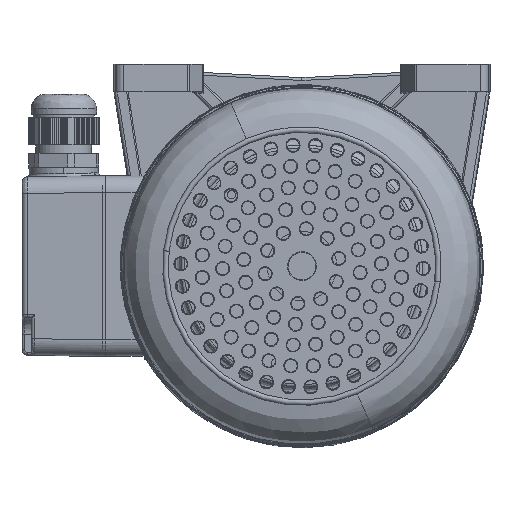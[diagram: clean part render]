
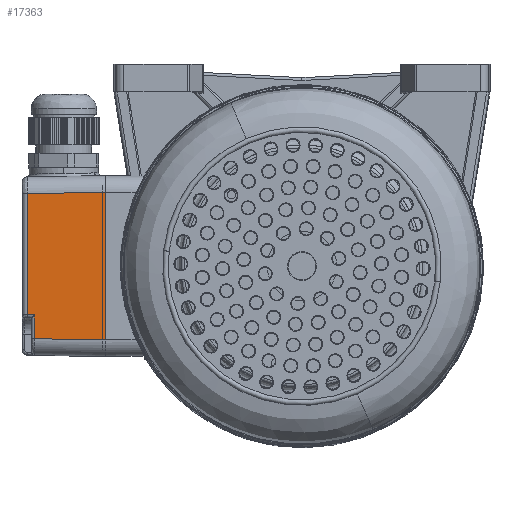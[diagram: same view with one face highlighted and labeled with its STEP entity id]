
A CAD part, front view. The second image highlights one B-rep face of the part: STEP entity #17363.
In plain terms, the highlighted planar face has unit normal (-0.018, -1, 0) as drawn and (-1, 0, 0.017) by its records, which use the part's own axes.
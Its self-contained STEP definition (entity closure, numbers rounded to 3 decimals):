
#7314 = VECTOR ( 'NONE', #73869, 1000. ) ;
#7392 = VECTOR ( 'NONE', #74093, 1000. ) ;
#7397 = VECTOR ( 'NONE', #74113, 1000. ) ;
#7401 = VECTOR ( 'NONE', #74116, 1000. ) ;
#7404 = VECTOR ( 'NONE', #74119, 1000. ) ;
#7407 = VECTOR ( 'NONE', #74122, 1000. ) ;
#16997 = ORIENTED_EDGE ( 'NONE', *, *, #17934, .T. ) ;
#16998 = ORIENTED_EDGE ( 'NONE', *, *, #17935, .T. ) ;
#16999 = ORIENTED_EDGE ( 'NONE', *, *, #17933, .T. ) ;
#17000 = ORIENTED_EDGE ( 'NONE', *, *, #17936, .T. ) ;
#17001 = ORIENTED_EDGE ( 'NONE', *, *, #17929, .F. ) ;
#17002 = ORIENTED_EDGE ( 'NONE', *, *, #17891, .F. ) ;
#17363 = ADVANCED_FACE ( 'NONE', ( #58969 ), #50620, .T. ) ;
#17891 = EDGE_CURVE ( 'NONE', #118322, #118320, #73867, .T. ) ;
#17929 = EDGE_CURVE ( 'NONE', #118320, #118368, #74091, .T. ) ;
#17933 = EDGE_CURVE ( 'NONE', #118372, #118374, #74111, .T. ) ;
#17934 = EDGE_CURVE ( 'NONE', #118322, #118372, #74114, .T. ) ;
#17935 = EDGE_CURVE ( 'NONE', #118374, #118376, #74117, .T. ) ;
#17936 = EDGE_CURVE ( 'NONE', #118376, #118368, #74120, .T. ) ;
#50620 = PLANE ( 'NONE',  #58975 ) ;
#50622 = CARTESIAN_POINT ( 'NONE',  ( -31.986, -29.151, 29.437 ) ) ;
#50624 = DIRECTION ( 'NONE',  ( -1., 0., 0.017 ) ) ;
#50626 = DIRECTION ( 'NONE',  ( 0.017, 0., 1. ) ) ;
#58969 = FACE_OUTER_BOUND ( 'NONE', #129106, .T. ) ;
#58975 = AXIS2_PLACEMENT_3D ( 'NONE', #50622, #50624, #50626 ) ;
#73867 = LINE ( 'NONE', #73868, #7314 ) ;
#73868 = CARTESIAN_POINT ( 'NONE',  ( -32.011, 17.473, 28.035 ) ) ;
#73869 = DIRECTION ( 'NONE',  ( 0., -1., 0. ) ) ;
#74091 = LINE ( 'NONE', #74092, #7392 ) ;
#74092 = CARTESIAN_POINT ( 'NONE',  ( -32.5, -26.501, 0. ) ) ;
#74093 = DIRECTION ( 'NONE',  ( -0.017, -0.017, -1. ) ) ;
#74111 = LINE ( 'NONE', #74112, #7397 ) ;
#74112 = CARTESIAN_POINT ( 'NONE',  ( -32.055, -29.151, 25.517 ) ) ;
#74113 = DIRECTION ( 'NONE',  ( 0., 1., 0. ) ) ;
#74114 = LINE ( 'NONE', #74115, #7401 ) ;
#74115 = CARTESIAN_POINT ( 'NONE',  ( -32.011, 17.473, 28.035 ) ) ;
#74116 = DIRECTION ( 'NONE',  ( -0.017, 0.017, -1. ) ) ;
#74117 = LINE ( 'NONE', #74118, #7404 ) ;
#74118 = CARTESIAN_POINT ( 'NONE',  ( -32.055, 26.056, 25.517 ) ) ;
#74119 = DIRECTION ( 'NONE',  ( -0.017, 0.017, -1. ) ) ;
#74120 = LINE ( 'NONE', #74121, #7407 ) ;
#74121 = CARTESIAN_POINT ( 'NONE',  ( -32.5, -29.151, 0. ) ) ;
#74122 = DIRECTION ( 'NONE',  ( 0., -1., 0. ) ) ;
#79756 = CARTESIAN_POINT ( 'NONE',  ( -32.011, -26.012, 28.035 ) ) ;
#79757 = CARTESIAN_POINT ( 'NONE',  ( -32.011, 17.473, 28.035 ) ) ;
#79780 = CARTESIAN_POINT ( 'NONE',  ( -32.5, -26.501, 0. ) ) ;
#79782 = CARTESIAN_POINT ( 'NONE',  ( -32.055, 17.517, 25.517 ) ) ;
#79783 = CARTESIAN_POINT ( 'NONE',  ( -32.055, 26.056, 25.517 ) ) ;
#79784 = CARTESIAN_POINT ( 'NONE',  ( -32.5, 26.501, 0. ) ) ;
#118320 = VERTEX_POINT ( 'NONE', #79756 ) ;
#118322 = VERTEX_POINT ( 'NONE', #79757 ) ;
#118368 = VERTEX_POINT ( 'NONE', #79780 ) ;
#118372 = VERTEX_POINT ( 'NONE', #79782 ) ;
#118374 = VERTEX_POINT ( 'NONE', #79783 ) ;
#118376 = VERTEX_POINT ( 'NONE', #79784 ) ;
#129106 = EDGE_LOOP ( 'NONE', ( #16997, #16999, #16998, #17000, #17001, #17002 ) ) ;
